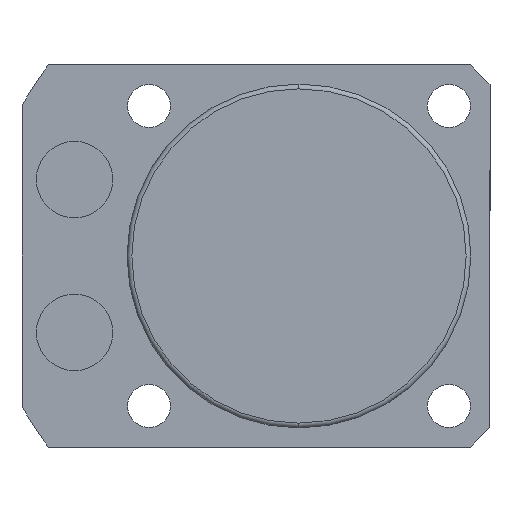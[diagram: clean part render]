
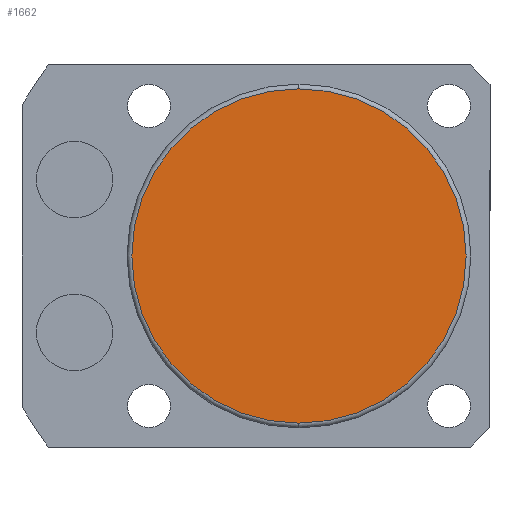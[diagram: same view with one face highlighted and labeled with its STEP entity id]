
A CAD part, front view. The second image highlights one B-rep face of the part: STEP entity #1662.
In plain terms, the highlighted planar face has unit normal (0, -1, 0).
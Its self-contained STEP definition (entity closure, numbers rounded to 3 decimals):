
#97 = AXIS2_PLACEMENT_3D ( 'NONE', #742, #936, #384 ) ;
#107 = CIRCLE ( 'NONE', #97, 17.5 ) ;
#155 = DIRECTION ( 'NONE',  ( 0., 0., -1. ) ) ;
#321 = EDGE_CURVE ( 'NONE', #1918, #532, #107, .T. ) ;
#384 = DIRECTION ( 'NONE',  ( 0., 0., -1. ) ) ;
#532 = VERTEX_POINT ( 'NONE', #2170 ) ;
#595 = DIRECTION ( 'NONE',  ( 0., 0., -1. ) ) ;
#722 = DIRECTION ( 'NONE',  ( 0., -1., 0. ) ) ;
#742 = CARTESIAN_POINT ( 'NONE',  ( 0., -55.5, 0. ) ) ;
#771 = DIRECTION ( 'NONE',  ( 0., -1., 0. ) ) ;
#936 = DIRECTION ( 'NONE',  ( 0., -1., 0. ) ) ;
#976 = ORIENTED_EDGE ( 'NONE', *, *, #321, .T. ) ;
#1181 = EDGE_CURVE ( 'NONE', #532, #1918, #1923, .T. ) ;
#1190 = AXIS2_PLACEMENT_3D ( 'NONE', #1874, #722, #155 ) ;
#1334 = EDGE_LOOP ( 'NONE', ( #1567, #976 ) ) ;
#1435 = FACE_OUTER_BOUND ( 'NONE', #1334, .T. ) ;
#1509 = CARTESIAN_POINT ( 'NONE',  ( 0., -55.5, 17.5 ) ) ;
#1567 = ORIENTED_EDGE ( 'NONE', *, *, #1181, .T. ) ;
#1662 = ADVANCED_FACE ( 'NONE', ( #1435 ), #1714, .T. ) ;
#1714 = PLANE ( 'NONE',  #2011 ) ;
#1874 = CARTESIAN_POINT ( 'NONE',  ( 0., -55.5, 0. ) ) ;
#1903 = CARTESIAN_POINT ( 'NONE',  ( 0., -55.5, 0. ) ) ;
#1918 = VERTEX_POINT ( 'NONE', #1509 ) ;
#1923 = CIRCLE ( 'NONE', #1190, 17.5 ) ;
#2011 = AXIS2_PLACEMENT_3D ( 'NONE', #1903, #771, #595 ) ;
#2170 = CARTESIAN_POINT ( 'NONE',  ( 0., -55.5, -17.5 ) ) ;
